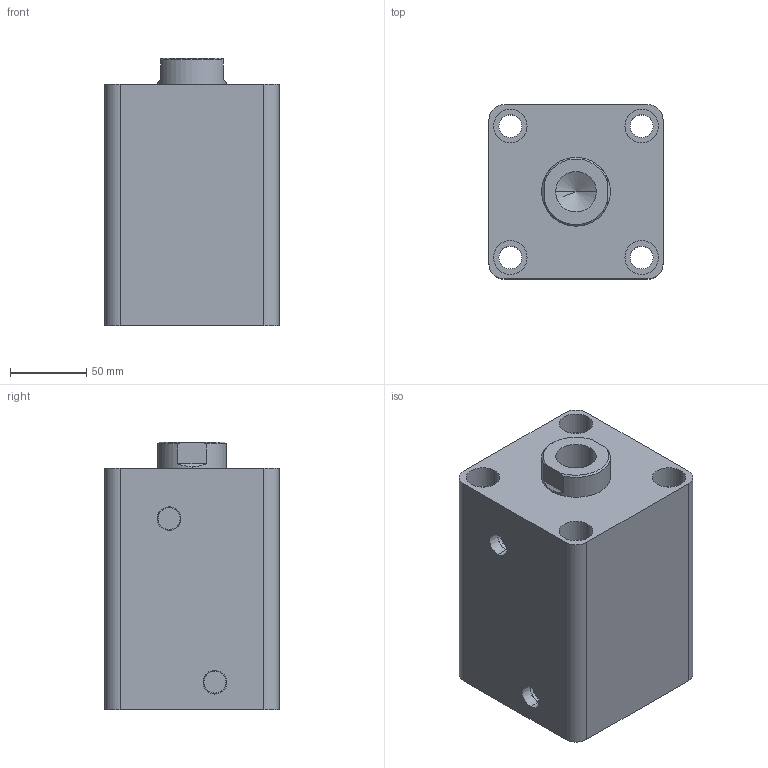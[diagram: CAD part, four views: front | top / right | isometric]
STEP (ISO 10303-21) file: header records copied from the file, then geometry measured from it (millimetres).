
FILE_DESCRIPTION (( 'STEP AP203' ), '1' );
FILE_NAME ('HTB-SD80-80N.STEP', '2019-10-07T08:36:19', ( '微软用户' ), ( '微软中国' ), 'SwSTEP 2.0', 'SolidWorks 2012', '' );
FILE_SCHEMA (( 'CONFIG_CONTROL_DESIGN' ));
Length unit declared in the file: millimetre
Products named in the file (3): HTB-SD80-80N; HTB-SD80-80N活塞杆; HTB-SD80-80掛极
Assembly tree (2 placements, depth 2):
  HTB-SD80-80N
    HTB-SD80-80掛极
    HTB-SD80-80N活塞杆
Bounding box: 114 x 114 x 175 mm (x, y, z)
Volume: 1630586.2 mm3; surface area: 205144 mm2
Topology: 2 solids, 2 shells, 83 faces, 184 edges, 119 vertices
Faces by surface type: cylinder 42, plane 27, cone 8, torus 6
Entity records: 2655 total; most frequent: DIRECTION 456, CARTESIAN_POINT 417, ORIENTED_EDGE 364, AXIS2_PLACEMENT_3D 194, EDGE_CURVE 182, VERTEX_POINT 119, EDGE_LOOP 107, CIRCLE 106
